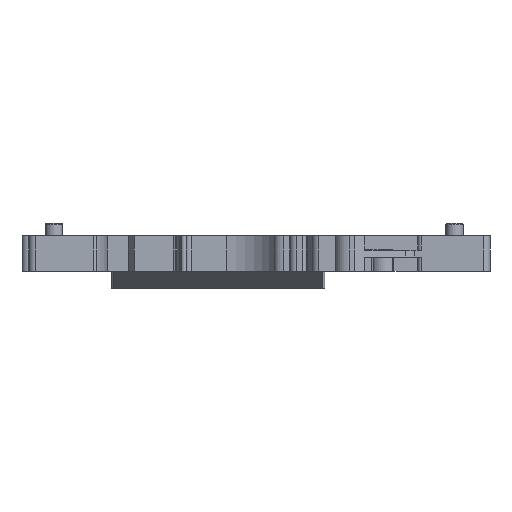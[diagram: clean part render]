
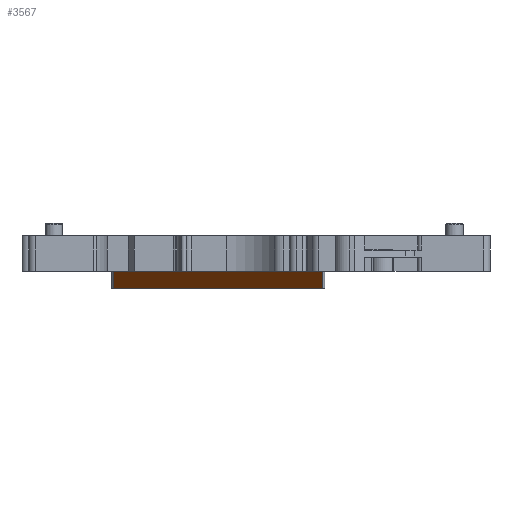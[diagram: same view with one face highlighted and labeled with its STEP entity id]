
A CAD part, front view. The second image highlights one B-rep face of the part: STEP entity #3567.
In plain terms, the highlighted planar face has unit normal (0, -0.628, -0.778).
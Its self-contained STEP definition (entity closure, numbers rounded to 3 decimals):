
#3567=ADVANCED_FACE('',(#6386),#5167,.T.);
#5167=PLANE('',#33665);
#6386=FACE_OUTER_BOUND('',#8124,.T.);
#8124=EDGE_LOOP('',(#12447,#12448,#12449,#12450));
#12447=ORIENTED_EDGE('',*,*,#21985,.T.);
#12448=ORIENTED_EDGE('',*,*,#22817,.T.);
#12449=ORIENTED_EDGE('',*,*,#22815,.F.);
#12450=ORIENTED_EDGE('',*,*,#22851,.T.);
#18936=VERTEX_POINT('',#42672);
#18937=VERTEX_POINT('',#42674);
#19652=VERTEX_POINT('',#44455);
#19653=VERTEX_POINT('',#44457);
#21985=EDGE_CURVE('',#18937,#18936,#26467,.T.);
#22815=EDGE_CURVE('',#19652,#19653,#27032,.T.);
#22817=EDGE_CURVE('',#18936,#19653,#27034,.T.);
#22851=EDGE_CURVE('',#19652,#18937,#27063,.T.);
#26467=LINE('',#42673,#29692);
#27032=LINE('',#44456,#30257);
#27034=LINE('',#44460,#30259);
#27063=LINE('',#44590,#30288);
#29692=VECTOR('',#35234,1.);
#30257=VECTOR('',#36495,1.);
#30259=VECTOR('',#36499,1.);
#30288=VECTOR('',#36550,1.);
#33665=AXIS2_PLACEMENT_3D('',#48399,#37571,#37572);
#35234=DIRECTION('',(-1.,0.,0.));
#36495=DIRECTION('',(-1.,0.,0.));
#36499=DIRECTION('',(0.,0.778,-0.628));
#36550=DIRECTION('',(0.,-0.778,0.628));
#37571=DIRECTION('',(0.,-0.628,-0.778));
#37572=DIRECTION('',(0.,-0.778,0.628));
#42672=CARTESIAN_POINT('',(-33.,27.7,-5.3));
#42673=CARTESIAN_POINT('',(267.96,27.7,-5.3));
#42674=CARTESIAN_POINT('',(-2.6,27.7,-5.3));
#44455=CARTESIAN_POINT('',(-2.6,30.8,-7.8));
#44456=CARTESIAN_POINT('',(267.96,30.8,-7.8));
#44457=CARTESIAN_POINT('',(-33.,30.8,-7.8));
#44460=CARTESIAN_POINT('',(-33.,27.7,-5.3));
#44590=CARTESIAN_POINT('',(-2.6,27.7,-5.3));
#48399=CARTESIAN_POINT('',(267.96,27.7,-5.3));
